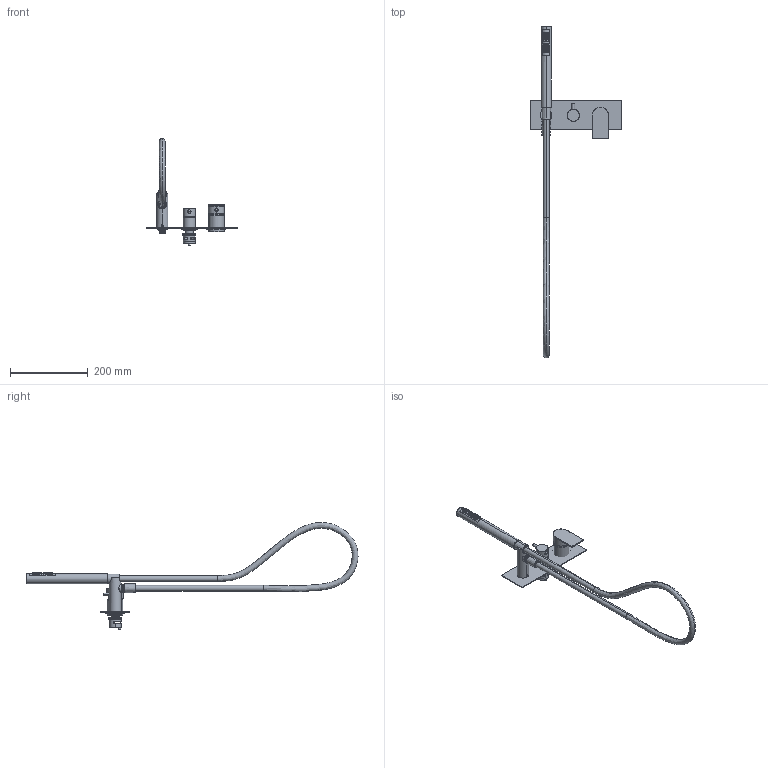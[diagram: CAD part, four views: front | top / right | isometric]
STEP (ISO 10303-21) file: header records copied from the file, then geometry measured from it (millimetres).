
FILE_DESCRIPTION((''),'2;1');
FILE_NAME('83529V2_SW0001','2023-06-01T09:05:25',('volponeff'),(''),'CREO PARAMETRIC BY PTC INC, 2022014','CREO PARAMETRIC BY PTC INC, 2022014','');
FILE_SCHEMA(('CONFIG_CONTROL_DESIGN'));
Length unit declared in the file: millimetre
Products named in the file (1): 83529V2_SW0001
Bounding box: 235 x 856.74 x 276.47 mm (x, y, z)
Surface area: 172845.3 mm2 (no closed solid volume)
Topology: 0 solids, 69 shells, 295 faces, 819 edges, 573 vertices
Faces by surface type: cylinder 177, plane 46, cone 30, bspline 21, torus 17, sphere 4
Entity records: 14314 total; most frequent: CARTESIAN_POINT 7357, DIRECTION 1375, ORIENTED_EDGE 1311, EDGE_CURVE 815, VERTEX_POINT 573, AXIS2_PLACEMENT_3D 545, EDGE_LOOP 295, FACE_OUTER_BOUND 295
